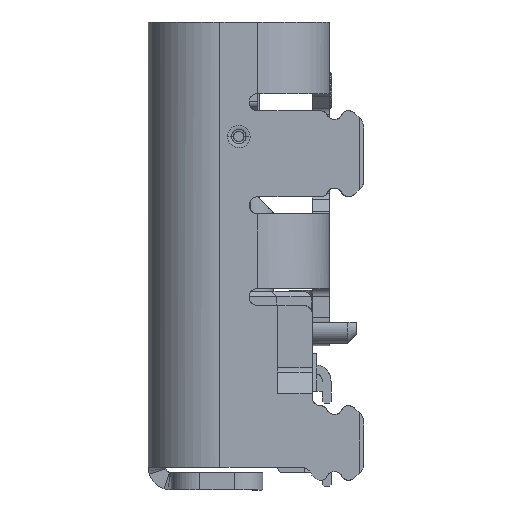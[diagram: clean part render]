
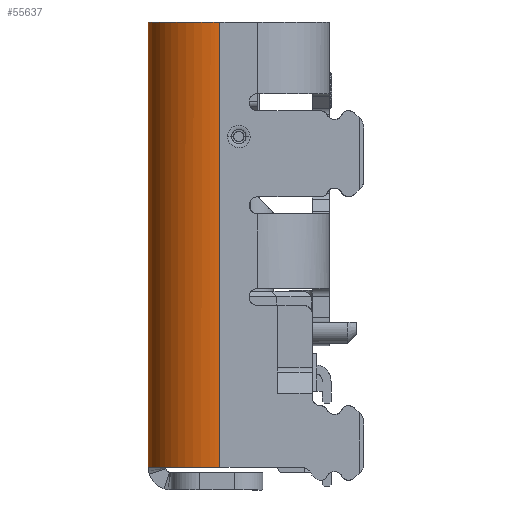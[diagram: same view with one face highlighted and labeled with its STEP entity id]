
A CAD part, left-side view. The second image highlights one B-rep face of the part: STEP entity #55637.
In plain terms, the highlighted cylindrical face has radius 1.25 mm (diameter 2.5 mm), a partial arc.
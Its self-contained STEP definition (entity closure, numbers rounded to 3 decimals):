
#246 = ORIENTED_EDGE ( 'NONE', *, *, #37406, .T. ) ;
#1385 = CARTESIAN_POINT ( 'NONE',  ( 4.311, -2.241, 0. ) ) ;
#2181 = VERTEX_POINT ( 'NONE', #36178 ) ;
#3505 = CARTESIAN_POINT ( 'NONE',  ( 4.47, -1.61, -2.59 ) ) ;
#4859 = CARTESIAN_POINT ( 'NONE',  ( 4.22, -2.378, -7.77 ) ) ;
#4932 = FACE_OUTER_BOUND ( 'NONE', #63074, .T. ) ;
#5176 = EDGE_CURVE ( 'NONE', #21587, #26409, #20369, .T. ) ;
#5630 = CARTESIAN_POINT ( 'NONE',  ( 4.47, -1.61, 0. ) ) ;
#6575 = CARTESIAN_POINT ( 'NONE',  ( 3.546, -2.828, 0. ) ) ;
#12984 = CARTESIAN_POINT ( 'NONE',  ( 4.47, -1.61, 0. ) ) ;
#14344 = CARTESIAN_POINT ( 'NONE',  ( 3.988, -2.61, -7.77 ) ) ;
#14659 = CARTESIAN_POINT ( 'NONE',  ( 3.547, -2.827, -7.77 ) ) ;
#20341 = CARTESIAN_POINT ( 'NONE',  ( 3.851, -2.702, 0. ) ) ;
#20369 = B_SPLINE_CURVE_WITH_KNOTS ( 'NONE', 3,
 ( #60855, #31422, #6575, #20341, #40304, #50453, #1385, #60227, #55991, #5630 ),
 .UNSPECIFIED., .F., .F.,
 ( 4, 2, 2, 2, 4 ),
 ( 0., 0.25, 0.5, 0.75, 1. ),
 .UNSPECIFIED. ) ;
#21587 = VERTEX_POINT ( 'NONE', #22595 ) ;
#22595 = CARTESIAN_POINT ( 'NONE',  ( 3.22, -2.86, 0. ) ) ;
#23549 = DIRECTION ( 'NONE',  ( 1., 0., 0. ) ) ;
#23882 = B_SPLINE_CURVE_WITH_KNOTS ( 'NONE', 3,
 ( #54894, #39846, #14659, #49663, #14344, #4859, #54250, #39188, #63707, #53936 ),
 .UNSPECIFIED., .F., .F.,
 ( 4, 2, 2, 2, 4 ),
 ( 0., 0.25, 0.5, 0.75, 1. ),
 .UNSPECIFIED. ) ;
#26409 = VERTEX_POINT ( 'NONE', #55084 ) ;
#27745 = AXIS2_PLACEMENT_3D ( 'NONE', #48772, #44841, #23549 ) ;
#29211 = ORIENTED_EDGE ( 'NONE', *, *, #57687, .T. ) ;
#29845 = CARTESIAN_POINT ( 'NONE',  ( 3.22, -2.86, -5.18 ) ) ;
#30812 = CARTESIAN_POINT ( 'NONE',  ( 3.22, -2.86, -7.77 ) ) ;
#31422 = CARTESIAN_POINT ( 'NONE',  ( 3.386, -2.86, 0. ) ) ;
#31669 = B_SPLINE_CURVE_WITH_KNOTS ( 'NONE', 3,
 ( #35727, #55062, #29845, #30812 ),
 .UNSPECIFIED., .F., .F.,
 ( 4, 4 ),
 ( 0., 1. ),
 .UNSPECIFIED. ) ;
#35727 = CARTESIAN_POINT ( 'NONE',  ( 3.22, -2.86, 0. ) ) ;
#36178 = CARTESIAN_POINT ( 'NONE',  ( 3.22, -2.86, -7.77 ) ) ;
#37406 = EDGE_CURVE ( 'NONE', #38748, #26409, #57251, .T. ) ;
#38621 = CYLINDRICAL_SURFACE ( 'NONE', #27745, 1.25 ) ;
#38748 = VERTEX_POINT ( 'NONE', #60984 ) ;
#39188 = CARTESIAN_POINT ( 'NONE',  ( 4.437, -1.937, -7.77 ) ) ;
#39846 = CARTESIAN_POINT ( 'NONE',  ( 3.384, -2.86, -7.77 ) ) ;
#40304 = CARTESIAN_POINT ( 'NONE',  ( 3.987, -2.611, 0. ) ) ;
#44841 = DIRECTION ( 'NONE',  ( 0., 0., 1. ) ) ;
#47664 = CARTESIAN_POINT ( 'NONE',  ( 4.47, -1.61, -7.77 ) ) ;
#48772 = CARTESIAN_POINT ( 'NONE',  ( 3.22, -1.61, -7.77 ) ) ;
#49618 = ORIENTED_EDGE ( 'NONE', *, *, #5176, .F. ) ;
#49663 = CARTESIAN_POINT ( 'NONE',  ( 3.85, -2.702, -7.77 ) ) ;
#50453 = CARTESIAN_POINT ( 'NONE',  ( 4.221, -2.377, 0. ) ) ;
#50626 = EDGE_CURVE ( 'NONE', #2181, #38748, #23882, .T. ) ;
#53936 = CARTESIAN_POINT ( 'NONE',  ( 4.47, -1.61, -7.77 ) ) ;
#54250 = CARTESIAN_POINT ( 'NONE',  ( 4.312, -2.24, -7.77 ) ) ;
#54730 = ORIENTED_EDGE ( 'NONE', *, *, #50626, .T. ) ;
#54894 = CARTESIAN_POINT ( 'NONE',  ( 3.22, -2.86, -7.77 ) ) ;
#55062 = CARTESIAN_POINT ( 'NONE',  ( 3.22, -2.86, -2.59 ) ) ;
#55084 = CARTESIAN_POINT ( 'NONE',  ( 4.47, -1.61, 0. ) ) ;
#55637 = ADVANCED_FACE ( 'NONE', ( #4932 ), #38621, .T. ) ;
#55991 = CARTESIAN_POINT ( 'NONE',  ( 4.47, -1.776, 0. ) ) ;
#57251 = B_SPLINE_CURVE_WITH_KNOTS ( 'NONE', 3,
 ( #47664, #57462, #3505, #12984 ),
 .UNSPECIFIED., .F., .F.,
 ( 4, 4 ),
 ( 0., 1. ),
 .UNSPECIFIED. ) ;
#57462 = CARTESIAN_POINT ( 'NONE',  ( 4.47, -1.61, -5.18 ) ) ;
#57687 = EDGE_CURVE ( 'NONE', #21587, #2181, #31669, .T. ) ;
#60227 = CARTESIAN_POINT ( 'NONE',  ( 4.438, -1.935, 0. ) ) ;
#60855 = CARTESIAN_POINT ( 'NONE',  ( 3.22, -2.86, 0. ) ) ;
#60984 = CARTESIAN_POINT ( 'NONE',  ( 4.47, -1.61, -7.77 ) ) ;
#63074 = EDGE_LOOP ( 'NONE', ( #54730, #246, #49618, #29211 ) ) ;
#63707 = CARTESIAN_POINT ( 'NONE',  ( 4.47, -1.774, -7.77 ) ) ;
